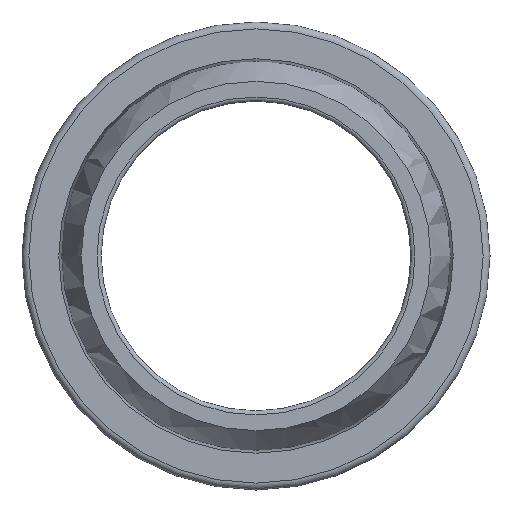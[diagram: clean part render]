
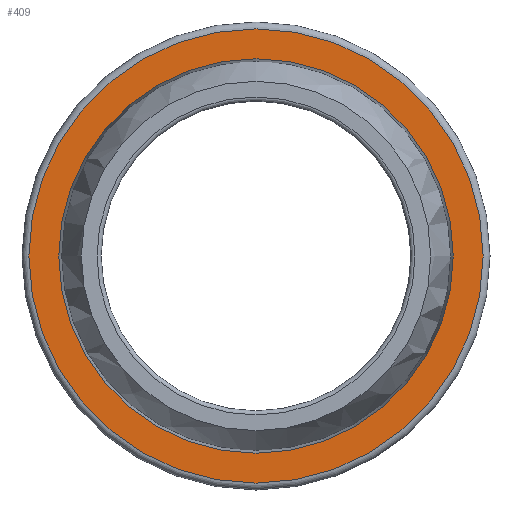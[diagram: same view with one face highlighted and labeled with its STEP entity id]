
A CAD part, left-side view. The second image highlights one B-rep face of the part: STEP entity #409.
In plain terms, the highlighted planar face has unit normal (-1, 0, 0).
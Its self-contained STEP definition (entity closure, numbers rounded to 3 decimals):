
#31=PLANE('',#466);
#74=FACE_BOUND('',#173,.T.);
#116=FACE_OUTER_BOUND('',#172,.T.);
#172=EDGE_LOOP('',(#364));
#173=EDGE_LOOP('',(#365));
#207=CIRCLE('',#465,28.659);
#208=CIRCLE('',#467,33.);
#245=VERTEX_POINT('',#976);
#246=VERTEX_POINT('',#979);
#287=EDGE_CURVE('',#245,#245,#207,.T.);
#288=EDGE_CURVE('',#246,#246,#208,.T.);
#364=ORIENTED_EDGE('',*,*,#288,.F.);
#365=ORIENTED_EDGE('',*,*,#287,.T.);
#409=ADVANCED_FACE('',(#116,#74),#31,.T.);
#465=AXIS2_PLACEMENT_3D('',#977,#575,#576);
#466=AXIS2_PLACEMENT_3D('',#978,#577,#578);
#467=AXIS2_PLACEMENT_3D('',#980,#579,#580);
#575=DIRECTION('center_axis',(1.,0.,0.));
#576=DIRECTION('ref_axis',(0.,0.,-1.));
#577=DIRECTION('center_axis',(-1.,0.,0.));
#578=DIRECTION('ref_axis',(0.,0.,1.));
#579=DIRECTION('center_axis',(1.,0.,0.));
#580=DIRECTION('ref_axis',(0.,0.,-1.));
#976=CARTESIAN_POINT('',(-12.5,28.659,0.));
#977=CARTESIAN_POINT('Origin',(-12.5,0.,0.));
#978=CARTESIAN_POINT('Origin',(-12.5,33.,0.));
#979=CARTESIAN_POINT('',(-12.5,33.,0.));
#980=CARTESIAN_POINT('Origin',(-12.5,0.,0.));
